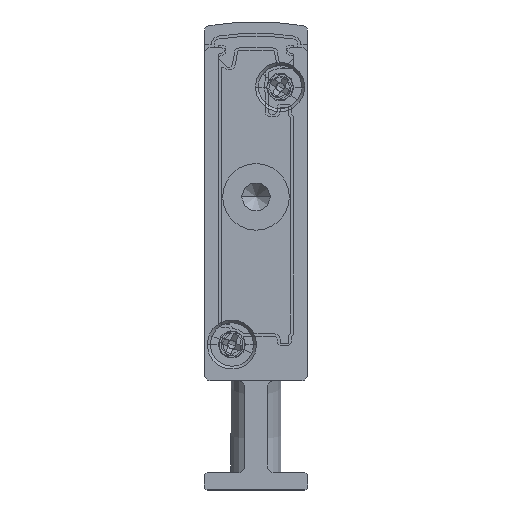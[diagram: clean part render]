
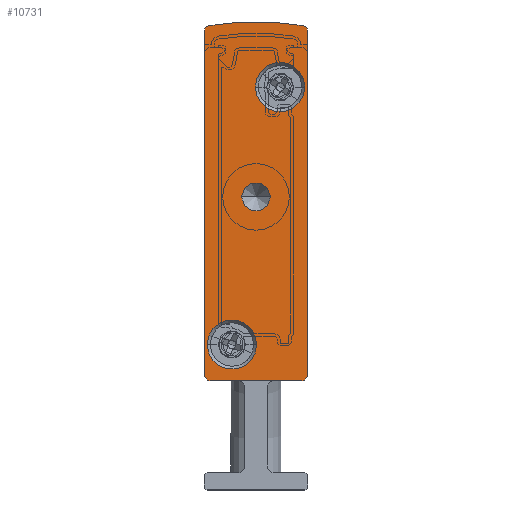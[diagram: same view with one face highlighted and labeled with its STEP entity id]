
A CAD part, front view. The second image highlights one B-rep face of the part: STEP entity #10731.
In plain terms, the highlighted planar face has unit normal (0, -1, 0).
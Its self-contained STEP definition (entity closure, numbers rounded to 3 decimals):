
#22 = ORIENTED_EDGE ( 'NONE', *, *, #8133, .F. ) ;
#187 = AXIS2_PLACEMENT_3D ( 'NONE', #4834, #15802, #9883 ) ;
#211 = VERTEX_POINT ( 'NONE', #13628 ) ;
#402 = ORIENTED_EDGE ( 'NONE', *, *, #8462, .F. ) ;
#672 = CARTESIAN_POINT ( 'NONE',  ( 9., -2.5, 39.902 ) ) ;
#704 = VERTEX_POINT ( 'NONE', #6958 ) ;
#861 = DIRECTION ( 'NONE',  ( 0., 1., 0. ) ) ;
#989 = EDGE_LOOP ( 'NONE', ( #18385, #17735 ) ) ;
#1390 = AXIS2_PLACEMENT_3D ( 'NONE', #19632, #10401, #13527 ) ;
#1422 = CARTESIAN_POINT ( 'NONE',  ( 4.45, -2.5, 35.05 ) ) ;
#1498 = DIRECTION ( 'NONE',  ( -1., 0., 0. ) ) ;
#1517 = DIRECTION ( 'NONE',  ( 0., -1., 0. ) ) ;
#1523 = EDGE_CURVE ( 'NONE', #211, #5716, #7857, .T. ) ;
#1893 = DIRECTION ( 'NONE',  ( 0., 1., 0. ) ) ;
#1905 = CARTESIAN_POINT ( 'NONE',  ( 9., -2.5, 10. ) ) ;
#1936 = EDGE_CURVE ( 'NONE', #15718, #7316, #19276, .T. ) ;
#1986 = DIRECTION ( 'NONE',  ( -1., 0., 0. ) ) ;
#2123 = DIRECTION ( 'NONE',  ( 0., 1., 0. ) ) ;
#2237 = DIRECTION ( 'NONE',  ( 0., -1., 0. ) ) ;
#2301 = ORIENTED_EDGE ( 'NONE', *, *, #4616, .F. ) ;
#2629 = ORIENTED_EDGE ( 'NONE', *, *, #12518, .F. ) ;
#2664 = CIRCLE ( 'NONE', #7336, 0.5 ) ;
#3124 = EDGE_LOOP ( 'NONE', ( #15666, #2629 ) ) ;
#3216 = CIRCLE ( 'NONE', #14084, 2.15 ) ;
#3243 = DIRECTION ( 'NONE',  ( -1., 0., 0. ) ) ;
#3350 = CIRCLE ( 'NONE', #15652, 2.15 ) ;
#3450 = VERTEX_POINT ( 'NONE', #15543 ) ;
#3555 = DIRECTION ( 'NONE',  ( 0., -1., 0. ) ) ;
#3639 = EDGE_CURVE ( 'NONE', #704, #8269, #3216, .T. ) ;
#3647 = AXIS2_PLACEMENT_3D ( 'NONE', #11475, #2237, #19011 ) ;
#3710 = EDGE_LOOP ( 'NONE', ( #22, #2301, #9086, #402, #14991, #18647, #16347, #17313 ) ) ;
#4616 = EDGE_CURVE ( 'NONE', #17522, #16464, #16880, .T. ) ;
#4834 = CARTESIAN_POINT ( 'NONE',  ( 4.5, -2.5, 25.5 ) ) ;
#5118 = CARTESIAN_POINT ( 'NONE',  ( 9., -2.5, 39.902 ) ) ;
#5240 = LINE ( 'NONE', #672, #16902 ) ;
#5716 = VERTEX_POINT ( 'NONE', #1422 ) ;
#5726 = ORIENTED_EDGE ( 'NONE', *, *, #15094, .T. ) ;
#5746 = DIRECTION ( 'NONE',  ( 0., 0., 1. ) ) ;
#5918 = VERTEX_POINT ( 'NONE', #15612 ) ;
#6103 = FACE_BOUND ( 'NONE', #3124, .T. ) ;
#6225 = EDGE_CURVE ( 'NONE', #8269, #704, #3350, .T. ) ;
#6356 = DIRECTION ( 'NONE',  ( 0., 1., 0. ) ) ;
#6434 = VERTEX_POINT ( 'NONE', #5118 ) ;
#6542 = EDGE_CURVE ( 'NONE', #6434, #15718, #5240, .T. ) ;
#6610 = DIRECTION ( 'NONE',  ( -1., 0., 0. ) ) ;
#6674 = AXIS2_PLACEMENT_3D ( 'NONE', #17962, #8862, #10412 ) ;
#6880 = DIRECTION ( 'NONE',  ( 0., 0., -1. ) ) ;
#6948 = CARTESIAN_POINT ( 'NONE',  ( 0., -2.5, 10. ) ) ;
#6955 = EDGE_CURVE ( 'NONE', #3450, #11618, #16859, .T. ) ;
#6958 = CARTESIAN_POINT ( 'NONE',  ( 4.55, -2.5, 12.65 ) ) ;
#7179 = CIRCLE ( 'NONE', #10739, 0.5 ) ;
#7316 = VERTEX_POINT ( 'NONE', #13701 ) ;
#7336 = AXIS2_PLACEMENT_3D ( 'NONE', #16214, #14775, #8644 ) ;
#7520 = CARTESIAN_POINT ( 'NONE',  ( 5.75, -2.5, 25.5 ) ) ;
#7857 = CIRCLE ( 'NONE', #3647, 2.15 ) ;
#7980 = EDGE_CURVE ( 'NONE', #18227, #6434, #7179, .T. ) ;
#8133 = EDGE_CURVE ( 'NONE', #16464, #18638, #15062, .T. ) ;
#8232 = FACE_BOUND ( 'NONE', #11662, .T. ) ;
#8269 = VERTEX_POINT ( 'NONE', #12096 ) ;
#8289 = CARTESIAN_POINT ( 'NONE',  ( 0.5, -2.5, 39.902 ) ) ;
#8458 = CARTESIAN_POINT ( 'NONE',  ( 0.408, -2.5, 40.393 ) ) ;
#8462 = EDGE_CURVE ( 'NONE', #7316, #5918, #13403, .T. ) ;
#8644 = DIRECTION ( 'NONE',  ( -1., 0., 0. ) ) ;
#8794 = PLANE ( 'NONE',  #6674 ) ;
#8862 = DIRECTION ( 'NONE',  ( 0., 1., 0. ) ) ;
#9076 = AXIS2_PLACEMENT_3D ( 'NONE', #8289, #861, #13040 ) ;
#9086 = ORIENTED_EDGE ( 'NONE', *, *, #19286, .F. ) ;
#9125 = CARTESIAN_POINT ( 'NONE',  ( 2.4, -2.5, 12.65 ) ) ;
#9214 = FACE_OUTER_BOUND ( 'NONE', #3710, .T. ) ;
#9279 = AXIS2_PLACEMENT_3D ( 'NONE', #9498, #3555, #18658 ) ;
#9498 = CARTESIAN_POINT ( 'NONE',  ( 6.6, -2.5, 35.05 ) ) ;
#9615 = DIRECTION ( 'NONE',  ( 0., -1., 0. ) ) ;
#9673 = AXIS2_PLACEMENT_3D ( 'NONE', #16810, #6356, #1498 ) ;
#9883 = DIRECTION ( 'NONE',  ( -1., 0., 0. ) ) ;
#10033 = VECTOR ( 'NONE', #3243, 1000. ) ;
#10401 = DIRECTION ( 'NONE',  ( 0., 1., 0. ) ) ;
#10412 = DIRECTION ( 'NONE',  ( -1., 0., 0. ) ) ;
#10731 = ADVANCED_FACE ( 'NONE', ( #6103, #17758, #9214, #8232 ), #8794, .F. ) ;
#10739 = AXIS2_PLACEMENT_3D ( 'NONE', #15564, #1893, #6610 ) ;
#11475 = CARTESIAN_POINT ( 'NONE',  ( 6.6, -2.5, 35.05 ) ) ;
#11618 = VERTEX_POINT ( 'NONE', #7520 ) ;
#11662 = EDGE_LOOP ( 'NONE', ( #18365, #5726 ) ) ;
#12096 = CARTESIAN_POINT ( 'NONE',  ( 0.25, -2.5, 12.65 ) ) ;
#12218 = DIRECTION ( 'NONE',  ( 1., 0., 0. ) ) ;
#12430 = CIRCLE ( 'NONE', #9279, 2.15 ) ;
#12518 = EDGE_CURVE ( 'NONE', #5716, #211, #12430, .T. ) ;
#13040 = DIRECTION ( 'NONE',  ( -1., 0., 0. ) ) ;
#13403 = LINE ( 'NONE', #13730, #10033 ) ;
#13527 = DIRECTION ( 'NONE',  ( -1., 0., 0. ) ) ;
#13628 = CARTESIAN_POINT ( 'NONE',  ( 8.75, -2.5, 35.05 ) ) ;
#13701 = CARTESIAN_POINT ( 'NONE',  ( 8.5, -2.5, 9.5 ) ) ;
#13730 = CARTESIAN_POINT ( 'NONE',  ( 0.5, -2.5, 9.5 ) ) ;
#14077 = VECTOR ( 'NONE', #5746, 1000. ) ;
#14084 = AXIS2_PLACEMENT_3D ( 'NONE', #15668, #9615, #17182 ) ;
#14775 = DIRECTION ( 'NONE',  ( 0., 1., 0. ) ) ;
#14991 = ORIENTED_EDGE ( 'NONE', *, *, #1936, .F. ) ;
#15062 = CIRCLE ( 'NONE', #9076, 0.5 ) ;
#15094 = EDGE_CURVE ( 'NONE', #11618, #3450, #17961, .T. ) ;
#15543 = CARTESIAN_POINT ( 'NONE',  ( 3.25, -2.5, 25.5 ) ) ;
#15564 = CARTESIAN_POINT ( 'NONE',  ( 8.5, -2.5, 39.902 ) ) ;
#15612 = CARTESIAN_POINT ( 'NONE',  ( 0.5, -2.5, 9.5 ) ) ;
#15652 = AXIS2_PLACEMENT_3D ( 'NONE', #9125, #1517, #12218 ) ;
#15666 = ORIENTED_EDGE ( 'NONE', *, *, #1523, .F. ) ;
#15668 = CARTESIAN_POINT ( 'NONE',  ( 2.4, -2.5, 12.65 ) ) ;
#15718 = VERTEX_POINT ( 'NONE', #1905 ) ;
#15802 = DIRECTION ( 'NONE',  ( 0., 1., 0. ) ) ;
#16054 = EDGE_CURVE ( 'NONE', #18638, #18227, #16727, .T. ) ;
#16214 = CARTESIAN_POINT ( 'NONE',  ( 0.5, -2.5, 10. ) ) ;
#16347 = ORIENTED_EDGE ( 'NONE', *, *, #7980, .F. ) ;
#16388 = CARTESIAN_POINT ( 'NONE',  ( 8.592, -2.5, 40.393 ) ) ;
#16464 = VERTEX_POINT ( 'NONE', #19269 ) ;
#16463 = CARTESIAN_POINT ( 'NONE',  ( 0., -2.5, 39.902 ) ) ;
#16727 = CIRCLE ( 'NONE', #1390, 23.658 ) ;
#16810 = CARTESIAN_POINT ( 'NONE',  ( 8.5, -2.5, 10. ) ) ;
#16859 = CIRCLE ( 'NONE', #187, 1.25 ) ;
#16880 = LINE ( 'NONE', #16463, #14077 ) ;
#16902 = VECTOR ( 'NONE', #6880, 1000. ) ;
#17057 = AXIS2_PLACEMENT_3D ( 'NONE', #18695, #2123, #1986 ) ;
#17182 = DIRECTION ( 'NONE',  ( 1., 0., 0. ) ) ;
#17313 = ORIENTED_EDGE ( 'NONE', *, *, #16054, .F. ) ;
#17522 = VERTEX_POINT ( 'NONE', #6948 ) ;
#17735 = ORIENTED_EDGE ( 'NONE', *, *, #6225, .F. ) ;
#17758 = FACE_BOUND ( 'NONE', #989, .T. ) ;
#17962 = CARTESIAN_POINT ( 'NONE',  ( 0.5, -2.5, 39.902 ) ) ;
#17961 = CIRCLE ( 'NONE', #17057, 1.25 ) ;
#18227 = VERTEX_POINT ( 'NONE', #16388 ) ;
#18365 = ORIENTED_EDGE ( 'NONE', *, *, #6955, .T. ) ;
#18385 = ORIENTED_EDGE ( 'NONE', *, *, #3639, .F. ) ;
#18638 = VERTEX_POINT ( 'NONE', #8458 ) ;
#18647 = ORIENTED_EDGE ( 'NONE', *, *, #6542, .F. ) ;
#18658 = DIRECTION ( 'NONE',  ( 1., 0., 0. ) ) ;
#18695 = CARTESIAN_POINT ( 'NONE',  ( 4.5, -2.5, 25.5 ) ) ;
#19011 = DIRECTION ( 'NONE',  ( 1., 0., 0. ) ) ;
#19269 = CARTESIAN_POINT ( 'NONE',  ( 0., -2.5, 39.902 ) ) ;
#19276 = CIRCLE ( 'NONE', #9673, 0.5 ) ;
#19286 = EDGE_CURVE ( 'NONE', #5918, #17522, #2664, .T. ) ;
#19632 = CARTESIAN_POINT ( 'NONE',  ( 4.5, -2.5, 17.092 ) ) ;
